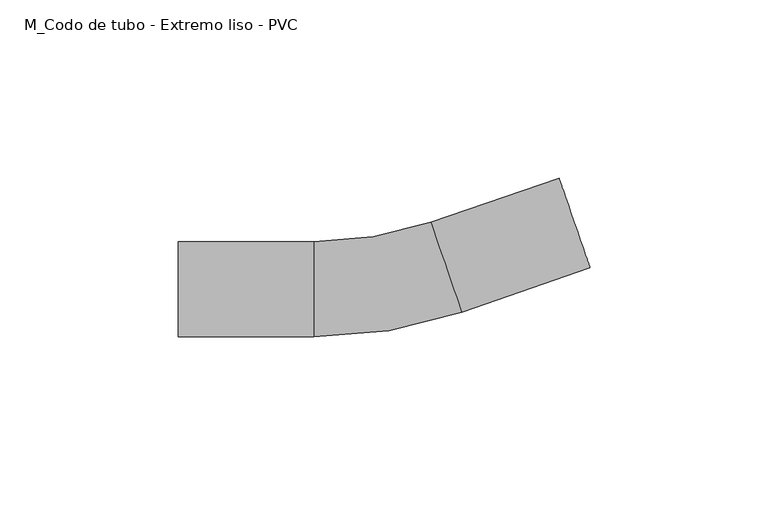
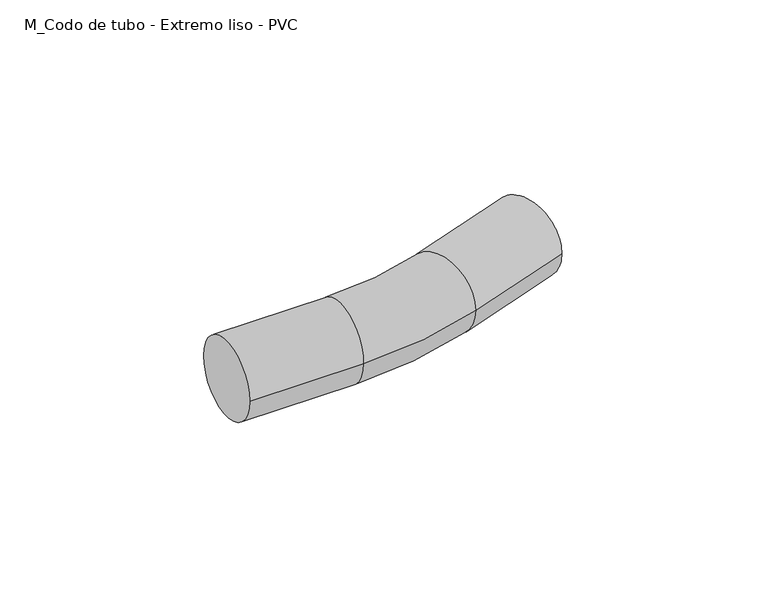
"""IFC4 building model written with IfcOpenShell, lengths in millimetres: cable carrier fitting geometry, M_Codo de tubo - Extremo liso - PVC : CODO ILUMINACION."""

from ifc_helpers import new_model, si_unit, point, frame, origin, place, context, project, spatial, circle_curve, ellipse_curve, trimmed, source, transform, mapped, element, save
from ifc_brep_helpers import plane_surface, cylinder_surface, revolved_surface, advanced_brep


def m_codo_de_tubo_extremo_liso_pvc_df1a18ac(model_context):
    return source(origin(), model_context, "Body", "AdvancedBrep", [
        advanced_brep(
        [(-57.2272602, -13.335, 0.0), (-57.2272602, 13.335, 0.0), (-19.1272602, -13.335, 0.0), (-19.1272602, 13.335, 0.0), (13.7437285, 18.835717, 0.0), (22.4266312, -6.3812634, 0.0), (58.4508889, 6.0228833, 0.0), (49.7679862, 31.2398637, 0.0)],
        [
            (0, 1, circle_curve(frame((-57.2272602, 0.0, 0.0), z_axis=(-1.0, 0.0, 0.0), x_axis=(0.0, 1.0, 0.0)), 13.335)),
            (1, 0, circle_curve(frame((-57.2272602, 0.0, 0.0), z_axis=(-1.0, 0.0, 0.0), x_axis=(0.0, 1.0, 0.0)), 13.335)),
            (0, 2),
            (2, 3, circle_curve(frame((-19.1272602, 0.0, 0.0), z_axis=(-1.0, 0.0, 0.0), x_axis=(0.0, 1.0, 0.0)), 13.335)),
            (3, 1),
            (3, 2, circle_curve(frame((-19.1272602, 0.0, 0.0), z_axis=(-1.0, 0.0, 0.0), x_axis=(0.0, 1.0, 0.0)), 13.335)),
            (4, 3, circle_curve(frame((-19.1272602, 114.3, 0.0), z_axis=(0.0, 0.0, -1.0), x_axis=(0.0, -1.0, 0.0)), 100.965)),
            (2, 5, circle_curve(frame((-19.1272602, 114.3, 0.0), z_axis=(0.0, 0.0, 1.0), x_axis=(0.0, -1.0, 0.0)), 127.635)),
            (5, 4, circle_curve(frame((18.0851798, 6.2272268, 0.0), z_axis=(-0.9455185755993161, -0.32556815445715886, 0.0), x_axis=(-0.32556815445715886, 0.9455185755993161, 0.0)), 13.335)),
            (4, 5, circle_curve(frame((18.0851798, 6.2272268, 0.0), z_axis=(-0.9455185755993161, -0.32556815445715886, 0.0), x_axis=(-0.32556815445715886, 0.9455185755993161, 0.0)), 13.335)),
            (6, 7, circle_curve(frame((54.1094376, 18.6313735, 0.0), z_axis=(0.9455185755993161, 0.3255681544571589, 0.0), x_axis=(-0.3255681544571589, 0.9455185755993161, 0.0)), 13.335)),
            (7, 6, circle_curve(frame((54.1094376, 18.6313735, 0.0), z_axis=(0.9455185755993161, 0.3255681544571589, 0.0), x_axis=(-0.3255681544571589, 0.9455185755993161, 0.0)), 13.335)),
            (5, 6),
            (7, 4),
        ],
        [
            plane_surface(frame((-57.2272602, 0.0, 0.0), z_axis=(-1.0, 0.0, 0.0), x_axis=(0.0, 0.0, 1.0))),
            cylinder_surface(frame((-57.2272602, 0.0, 0.0), z_axis=(-1.0, 0.0, 0.0), x_axis=(0.0, 1.0, 0.0)), 13.335),
            revolved_surface(trimmed(ellipse_curve(frame((-19.1272602, 0.0, 0.0), z_axis=(-1.0, 0.0, 0.0), x_axis=(0.0, 1.0, 0.0)), 13.335, 13.335), [point((-19.1272602, -13.335, 0.0))], [point((-19.1272602, 13.335, 0.0))], True, "CARTESIAN"), (-19.1272602, 114.3, 0.0), (0.0, 0.0, 1.0)),
            revolved_surface(trimmed(ellipse_curve(frame((-19.1272602, 0.0, 0.0), z_axis=(-1.0, 0.0, 0.0), x_axis=(0.0, 1.0, 0.0)), 13.335, 13.335), [point((-19.1272602, 13.335, 0.0))], [point((-19.1272602, -13.335, 0.0))], True, "CARTESIAN"), (-19.1272602, 114.3, 0.0), (0.0, 0.0, 1.0)),
            plane_surface(frame((54.1094376, 18.6313735, 0.0), z_axis=(0.9455185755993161, 0.3255681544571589, 0.0), x_axis=(0.0, 0.0, 1.0))),
            cylinder_surface(frame((18.0851798, 6.2272268, 0.0), z_axis=(-0.9455185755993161, -0.3255681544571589, 0.0), x_axis=(-0.3255681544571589, 0.9455185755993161, 0.0)), 13.335),
        ],
        [
            (0, [[1, 2]]),
            (1, [[-1, 3, 4, 5]]),
            (1, [[-2, -5, 6, -3]]),
            (2, [[7, -4, 8, 9]]),
            (3, [[-8, -6, -7, 10]]),
            (4, [[11, 12]]),
            (5, [[-9, 13, -12, 14]]),
            (5, [[-10, -14, -11, -13]]),
        ],
    ),
    ])


if __name__ == "__main__":
    model = new_model("IFC4")
    model_context = context("Model", 3, world=origin())
    ifc_project = project(units=[si_unit("LENGTHUNIT", "METRE", prefix="MILLI")], contexts=[model_context])
    site = spatial("IfcSite", under=ifc_project)
    building = spatial("IfcBuilding", under=site)
    placement = place(None, origin())
    m_codo_de_tubo_extremo_liso_pvc_shape = m_codo_de_tubo_extremo_liso_pvc_df1a18ac(model_context)
    element("IfcCableCarrierFitting", 1, ObjectType="M_Codo de tubo - Extremo liso - PVC : CODO ILUMINACION", at=placement, inside=building, context=model_context, shape_type="MappedRepresentation", body=[
        mapped(m_codo_de_tubo_extremo_liso_pvc_shape, transform((0.0, 0.0, 0.0), x_axis=(1.0, 0.0, 0.0), y_axis=(0.0, 1.0, 0.0), z_axis=(0.0, 0.0, 1.0))),
    ])
    save(model, "model.ifc")
